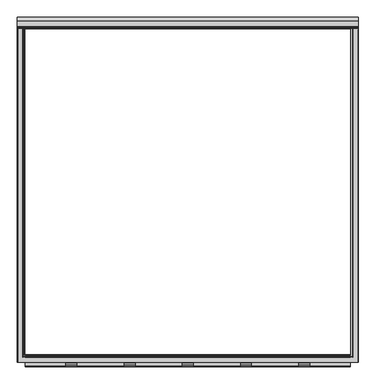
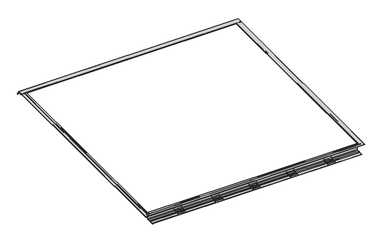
"""IFC4 building model written with IfcOpenShell, lengths in millimetres: fastener geometry."""

from ifc_helpers import new_model, si_unit, point, frame, frame_2d, origin, place, context, project, spatial, polyline, circle_curve, ellipse_curve, trimmed, segment, composite_curve, outline, extrude, source, transform, mapped, element, save
from ifc_brep_helpers import plane_surface, cylinder_surface, revolved_surface, advanced_brep


def fastener_14a7a0fd(model_context):
    return source(origin(), model_context, "Body", "SolidModel", [
        extrude(outline(composite_curve([segment(trimmed(circle_curve(frame_2d((-1145.5700599, -81.1625171)), 7.5509517), [point((-1138.0191082, -81.1625171))], [point((-1145.5700599, -88.7134688))], False, "CARTESIAN"), True, "CONTINUOUS"), segment(polyline([(-1145.5700599, -88.7134688), (-1177.5500422, -88.7134688)]), True, "CONTINUOUS"), segment(trimmed(circle_curve(frame_2d((-1177.2863618, -87.6574024)), 1.0884868), [point((-1177.5500422, -88.7134688))], [point((-1178.0560382, -86.8877259))], False, "CARTESIAN"), True, "CONTINUOUS"), segment(polyline([(-1178.0560382, -86.8877259), (-1176.7465916, -85.5782793)]), True, "CONTINUOUS"), segment(trimmed(circle_curve(frame_2d((-1177.516268, -84.8086029)), 1.0884868), [point((-1176.7465916, -85.5782793))], [point((-1176.911598, -83.9035184))], True, "CARTESIAN"), True, "CONTINUOUS"), segment(polyline([(-1176.911598, -83.9035184), (-1186.4250513, -83.9035184)]), True, "CONTINUOUS"), segment(trimmed(circle_curve(frame_2d((-1185.8203813, -84.8086029)), 1.0884868), [point((-1186.4250513, -83.9035184))], [point((-1186.5900578, -85.5782793))], True, "CARTESIAN"), True, "CONTINUOUS"), segment(polyline([(-1186.5900578, -85.5782793), (-1185.2806111, -86.8877259)]), True, "CONTINUOUS"), segment(trimmed(circle_curve(frame_2d((-1186.0502876, -87.6574024)), 1.0884868), [point((-1185.2806111, -86.8877259))], [point((-1185.7866071, -88.7134688))], False, "CARTESIAN"), True, "CONTINUOUS"), segment(polyline([(-1185.7866071, -88.7134688), (-1219.2, -88.7134688)]), True, "CONTINUOUS"), segment(trimmed(circle_curve(frame_2d((-1211.6858077, -87.981073)), 7.5498006), [point((-1219.2, -88.7134688))], [point((-1211.6858077, -80.4312724))], False, "CARTESIAN"), True, "CONTINUOUS"), segment(polyline([(-1211.6858077, -80.4312724), (-1195.9627839, -80.4312724)]), True, "CONTINUOUS"), segment(trimmed(circle_curve(frame_2d((-1195.8562589, -76.4549)), 3.977799), [point((-1195.9627839, -80.4312724))], [point((-1193.0435303, -79.2676287))], True, "CARTESIAN"), True, "CONTINUOUS"), segment(polyline([(-1193.0435303, -79.2676287), (-1190.9210407, -77.1451392)]), True, "CONTINUOUS"), segment(trimmed(circle_curve(frame_2d((-1188.1083121, -79.9578678)), 3.977799), [point((-1190.9210407, -77.1451392))], [point((-1188.0183247, -75.9810868))], False, "CARTESIAN"), True, "CONTINUOUS"), segment(polyline([(-1188.0183247, -75.9810868), (-1175.3183247, -75.9810868)]), True, "CONTINUOUS"), segment(trimmed(circle_curve(frame_2d((-1175.2283372, -79.9578678)), 3.977799), [point((-1175.3183247, -75.9810868))], [point((-1172.4156086, -77.1451392))], False, "CARTESIAN"), True, "CONTINUOUS"), segment(polyline([(-1172.4156086, -77.1451392), (-1170.2931191, -79.2676287)]), True, "CONTINUOUS"), segment(trimmed(circle_curve(frame_2d((-1167.4803904, -76.4549)), 3.977799), [point((-1170.2931191, -79.2676287))], [point((-1167.3738655, -80.4312724))], True, "CARTESIAN"), True, "CONTINUOUS"), segment(polyline([(-1167.3738655, -80.4312724), (-1150.9842926, -80.4312724)]), True, "CONTINUOUS"), segment(trimmed(circle_curve(frame_2d((-1150.2040874, -74.6486898)), 5.8349791), [point((-1150.9842926, -80.4312724))], [point((-1144.3691082, -74.6486898))], True, "CARTESIAN"), True, "CONTINUOUS"), segment(polyline([(-1144.3691082, -74.6486898), (-1144.3691082, -41.4750171), (-1138.0191082, -41.4750171), (-1138.0191082, -81.1625171)]), True, "CONTINUOUS")], self_intersect=False)), frame((774.7, 0.0, 0.0), z_axis=(1.0, 0.0, 0.0), x_axis=(0.0, 1.0, 0.0)), (0.0, 0.0, 1.0), 76.2),
        extrude(outline(composite_curve([segment(trimmed(circle_curve(frame_2d((-1145.5700599, -81.1625171)), 7.5509517), [point((-1138.0191082, -81.1625171))], [point((-1145.5700599, -88.7134688))], False, "CARTESIAN"), True, "CONTINUOUS"), segment(polyline([(-1145.5700599, -88.7134688), (-1177.5500422, -88.7134688)]), True, "CONTINUOUS"), segment(trimmed(circle_curve(frame_2d((-1177.2863618, -87.6574024)), 1.0884868), [point((-1177.5500422, -88.7134688))], [point((-1178.0560382, -86.8877259))], False, "CARTESIAN"), True, "CONTINUOUS"), segment(polyline([(-1178.0560382, -86.8877259), (-1176.7465916, -85.5782793)]), True, "CONTINUOUS"), segment(trimmed(circle_curve(frame_2d((-1177.516268, -84.8086029)), 1.0884868), [point((-1176.7465916, -85.5782793))], [point((-1176.911598, -83.9035184))], True, "CARTESIAN"), True, "CONTINUOUS"), segment(polyline([(-1176.911598, -83.9035184), (-1186.4250513, -83.9035184)]), True, "CONTINUOUS"), segment(trimmed(circle_curve(frame_2d((-1185.8203813, -84.8086029)), 1.0884868), [point((-1186.4250513, -83.9035184))], [point((-1186.5900578, -85.5782793))], True, "CARTESIAN"), True, "CONTINUOUS"), segment(polyline([(-1186.5900578, -85.5782793), (-1185.2806111, -86.8877259)]), True, "CONTINUOUS"), segment(trimmed(circle_curve(frame_2d((-1186.0502876, -87.6574024)), 1.0884868), [point((-1185.2806111, -86.8877259))], [point((-1185.7866071, -88.7134688))], False, "CARTESIAN"), True, "CONTINUOUS"), segment(polyline([(-1185.7866071, -88.7134688), (-1219.2, -88.7134688)]), True, "CONTINUOUS"), segment(trimmed(circle_curve(frame_2d((-1211.6858077, -87.981073)), 7.5498006), [point((-1219.2, -88.7134688))], [point((-1211.6858077, -80.4312724))], False, "CARTESIAN"), True, "CONTINUOUS"), segment(polyline([(-1211.6858077, -80.4312724), (-1195.9627839, -80.4312724)]), True, "CONTINUOUS"), segment(trimmed(circle_curve(frame_2d((-1195.8562589, -76.4549)), 3.977799), [point((-1195.9627839, -80.4312724))], [point((-1193.0435303, -79.2676287))], True, "CARTESIAN"), True, "CONTINUOUS"), segment(polyline([(-1193.0435303, -79.2676287), (-1190.9210407, -77.1451392)]), True, "CONTINUOUS"), segment(trimmed(circle_curve(frame_2d((-1188.1083121, -79.9578678)), 3.977799), [point((-1190.9210407, -77.1451392))], [point((-1188.0183247, -75.9810868))], False, "CARTESIAN"), True, "CONTINUOUS"), segment(polyline([(-1188.0183247, -75.9810868), (-1175.3183247, -75.9810868)]), True, "CONTINUOUS"), segment(trimmed(circle_curve(frame_2d((-1175.2283372, -79.9578678)), 3.977799), [point((-1175.3183247, -75.9810868))], [point((-1172.4156086, -77.1451392))], False, "CARTESIAN"), True, "CONTINUOUS"), segment(polyline([(-1172.4156086, -77.1451392), (-1170.2931191, -79.2676287)]), True, "CONTINUOUS"), segment(trimmed(circle_curve(frame_2d((-1167.4803904, -76.4549)), 3.977799), [point((-1170.2931191, -79.2676287))], [point((-1167.3738655, -80.4312724))], True, "CARTESIAN"), True, "CONTINUOUS"), segment(polyline([(-1167.3738655, -80.4312724), (-1150.9842926, -80.4312724)]), True, "CONTINUOUS"), segment(trimmed(circle_curve(frame_2d((-1150.2040874, -74.6486898)), 5.8349791), [point((-1150.9842926, -80.4312724))], [point((-1144.3691082, -74.6486898))], True, "CARTESIAN"), True, "CONTINUOUS"), segment(polyline([(-1144.3691082, -74.6486898), (-1144.3691082, -41.4750171), (-1138.0191082, -41.4750171), (-1138.0191082, -81.1625171)]), True, "CONTINUOUS")], self_intersect=False)), frame((-850.9, 0.0, 0.0), z_axis=(1.0, 0.0, 0.0), x_axis=(0.0, 1.0, 0.0)), (0.0, 0.0, 1.0), 76.2),
        extrude(outline(composite_curve([segment(trimmed(circle_curve(frame_2d((-1145.5700599, -81.1625171)), 7.5509517), [point((-1138.0191082, -81.1625171))], [point((-1145.5700599, -88.7134688))], False, "CARTESIAN"), True, "CONTINUOUS"), segment(polyline([(-1145.5700599, -88.7134688), (-1177.5500422, -88.7134688)]), True, "CONTINUOUS"), segment(trimmed(circle_curve(frame_2d((-1177.2863618, -87.6574024)), 1.0884868), [point((-1177.5500422, -88.7134688))], [point((-1178.0560382, -86.8877259))], False, "CARTESIAN"), True, "CONTINUOUS"), segment(polyline([(-1178.0560382, -86.8877259), (-1176.7465916, -85.5782793)]), True, "CONTINUOUS"), segment(trimmed(circle_curve(frame_2d((-1177.516268, -84.8086029)), 1.0884868), [point((-1176.7465916, -85.5782793))], [point((-1176.911598, -83.9035184))], True, "CARTESIAN"), True, "CONTINUOUS"), segment(polyline([(-1176.911598, -83.9035184), (-1186.4250513, -83.9035184)]), True, "CONTINUOUS"), segment(trimmed(circle_curve(frame_2d((-1185.8203813, -84.8086029)), 1.0884868), [point((-1186.4250513, -83.9035184))], [point((-1186.5900578, -85.5782793))], True, "CARTESIAN"), True, "CONTINUOUS"), segment(polyline([(-1186.5900578, -85.5782793), (-1185.2806111, -86.8877259)]), True, "CONTINUOUS"), segment(trimmed(circle_curve(frame_2d((-1186.0502876, -87.6574024)), 1.0884868), [point((-1185.2806111, -86.8877259))], [point((-1185.7866071, -88.7134688))], False, "CARTESIAN"), True, "CONTINUOUS"), segment(polyline([(-1185.7866071, -88.7134688), (-1219.2, -88.7134688)]), True, "CONTINUOUS"), segment(trimmed(circle_curve(frame_2d((-1211.6858077, -87.981073)), 7.5498006), [point((-1219.2, -88.7134688))], [point((-1211.6858077, -80.4312724))], False, "CARTESIAN"), True, "CONTINUOUS"), segment(polyline([(-1211.6858077, -80.4312724), (-1195.9627839, -80.4312724)]), True, "CONTINUOUS"), segment(trimmed(circle_curve(frame_2d((-1195.8562589, -76.4549)), 3.977799), [point((-1195.9627839, -80.4312724))], [point((-1193.0435303, -79.2676287))], True, "CARTESIAN"), True, "CONTINUOUS"), segment(polyline([(-1193.0435303, -79.2676287), (-1190.9210407, -77.1451392)]), True, "CONTINUOUS"), segment(trimmed(circle_curve(frame_2d((-1188.1083121, -79.9578678)), 3.977799), [point((-1190.9210407, -77.1451392))], [point((-1188.0183247, -75.9810868))], False, "CARTESIAN"), True, "CONTINUOUS"), segment(polyline([(-1188.0183247, -75.9810868), (-1175.3183247, -75.9810868)]), True, "CONTINUOUS"), segment(trimmed(circle_curve(frame_2d((-1175.2283372, -79.9578678)), 3.977799), [point((-1175.3183247, -75.9810868))], [point((-1172.4156086, -77.1451392))], False, "CARTESIAN"), True, "CONTINUOUS"), segment(polyline([(-1172.4156086, -77.1451392), (-1170.2931191, -79.2676287)]), True, "CONTINUOUS"), segment(trimmed(circle_curve(frame_2d((-1167.4803904, -76.4549)), 3.977799), [point((-1170.2931191, -79.2676287))], [point((-1167.3738655, -80.4312724))], True, "CARTESIAN"), True, "CONTINUOUS"), segment(polyline([(-1167.3738655, -80.4312724), (-1150.9842926, -80.4312724)]), True, "CONTINUOUS"), segment(trimmed(circle_curve(frame_2d((-1150.2040874, -74.6486898)), 5.8349791), [point((-1150.9842926, -80.4312724))], [point((-1144.3691082, -74.6486898))], True, "CARTESIAN"), True, "CONTINUOUS"), segment(polyline([(-1144.3691082, -74.6486898), (-1144.3691082, -41.4750171), (-1138.0191082, -41.4750171), (-1138.0191082, -81.1625171)]), True, "CONTINUOUS")], self_intersect=False)), frame((-444.5, 0.0, 0.0), z_axis=(1.0, 0.0, 0.0), x_axis=(0.0, 1.0, 0.0)), (0.0, 0.0, 1.0), 76.2),
        extrude(outline(composite_curve([segment(trimmed(circle_curve(frame_2d((-1145.5700599, -81.1625171)), 7.5509517), [point((-1138.0191082, -81.1625171))], [point((-1145.5700599, -88.7134688))], False, "CARTESIAN"), True, "CONTINUOUS"), segment(polyline([(-1145.5700599, -88.7134688), (-1177.5500422, -88.7134688)]), True, "CONTINUOUS"), segment(trimmed(circle_curve(frame_2d((-1177.2863618, -87.6574024)), 1.0884868), [point((-1177.5500422, -88.7134688))], [point((-1178.0560382, -86.8877259))], False, "CARTESIAN"), True, "CONTINUOUS"), segment(polyline([(-1178.0560382, -86.8877259), (-1176.7465916, -85.5782793)]), True, "CONTINUOUS"), segment(trimmed(circle_curve(frame_2d((-1177.516268, -84.8086029)), 1.0884868), [point((-1176.7465916, -85.5782793))], [point((-1176.911598, -83.9035184))], True, "CARTESIAN"), True, "CONTINUOUS"), segment(polyline([(-1176.911598, -83.9035184), (-1186.4250513, -83.9035184)]), True, "CONTINUOUS"), segment(trimmed(circle_curve(frame_2d((-1185.8203813, -84.8086029)), 1.0884868), [point((-1186.4250513, -83.9035184))], [point((-1186.5900578, -85.5782793))], True, "CARTESIAN"), True, "CONTINUOUS"), segment(polyline([(-1186.5900578, -85.5782793), (-1185.2806111, -86.8877259)]), True, "CONTINUOUS"), segment(trimmed(circle_curve(frame_2d((-1186.0502876, -87.6574024)), 1.0884868), [point((-1185.2806111, -86.8877259))], [point((-1185.7866071, -88.7134688))], False, "CARTESIAN"), True, "CONTINUOUS"), segment(polyline([(-1185.7866071, -88.7134688), (-1219.2, -88.7134688)]), True, "CONTINUOUS"), segment(trimmed(circle_curve(frame_2d((-1211.6858077, -87.981073)), 7.5498006), [point((-1219.2, -88.7134688))], [point((-1211.6858077, -80.4312724))], False, "CARTESIAN"), True, "CONTINUOUS"), segment(polyline([(-1211.6858077, -80.4312724), (-1195.9627839, -80.4312724)]), True, "CONTINUOUS"), segment(trimmed(circle_curve(frame_2d((-1195.8562589, -76.4549)), 3.977799), [point((-1195.9627839, -80.4312724))], [point((-1193.0435303, -79.2676287))], True, "CARTESIAN"), True, "CONTINUOUS"), segment(polyline([(-1193.0435303, -79.2676287), (-1190.9210407, -77.1451392)]), True, "CONTINUOUS"), segment(trimmed(circle_curve(frame_2d((-1188.1083121, -79.9578678)), 3.977799), [point((-1190.9210407, -77.1451392))], [point((-1188.0183247, -75.9810868))], False, "CARTESIAN"), True, "CONTINUOUS"), segment(polyline([(-1188.0183247, -75.9810868), (-1175.3183247, -75.9810868)]), True, "CONTINUOUS"), segment(trimmed(circle_curve(frame_2d((-1175.2283372, -79.9578678)), 3.977799), [point((-1175.3183247, -75.9810868))], [point((-1172.4156086, -77.1451392))], False, "CARTESIAN"), True, "CONTINUOUS"), segment(polyline([(-1172.4156086, -77.1451392), (-1170.2931191, -79.2676287)]), True, "CONTINUOUS"), segment(trimmed(circle_curve(frame_2d((-1167.4803904, -76.4549)), 3.977799), [point((-1170.2931191, -79.2676287))], [point((-1167.3738655, -80.4312724))], True, "CARTESIAN"), True, "CONTINUOUS"), segment(polyline([(-1167.3738655, -80.4312724), (-1150.9842926, -80.4312724)]), True, "CONTINUOUS"), segment(trimmed(circle_curve(frame_2d((-1150.2040874, -74.6486898)), 5.8349791), [point((-1150.9842926, -80.4312724))], [point((-1144.3691082, -74.6486898))], True, "CARTESIAN"), True, "CONTINUOUS"), segment(polyline([(-1144.3691082, -74.6486898), (-1144.3691082, -41.4750171), (-1138.0191082, -41.4750171), (-1138.0191082, -81.1625171)]), True, "CONTINUOUS")], self_intersect=False)), frame((368.3, 0.0, 0.0), z_axis=(1.0, 0.0, 0.0), x_axis=(0.0, 1.0, 0.0)), (0.0, 0.0, 1.0), 76.2),
        extrude(outline(composite_curve([segment(trimmed(circle_curve(frame_2d((-1145.5700599, -81.1625171)), 7.5509517), [point((-1138.0191082, -81.1625171))], [point((-1145.5700599, -88.7134688))], False, "CARTESIAN"), True, "CONTINUOUS"), segment(polyline([(-1145.5700599, -88.7134688), (-1177.5500422, -88.7134688)]), True, "CONTINUOUS"), segment(trimmed(circle_curve(frame_2d((-1177.2863618, -87.6574024)), 1.0884868), [point((-1177.5500422, -88.7134688))], [point((-1178.0560382, -86.8877259))], False, "CARTESIAN"), True, "CONTINUOUS"), segment(polyline([(-1178.0560382, -86.8877259), (-1176.7465916, -85.5782793)]), True, "CONTINUOUS"), segment(trimmed(circle_curve(frame_2d((-1177.516268, -84.8086029)), 1.0884868), [point((-1176.7465916, -85.5782793))], [point((-1176.911598, -83.9035184))], True, "CARTESIAN"), True, "CONTINUOUS"), segment(polyline([(-1176.911598, -83.9035184), (-1186.4250513, -83.9035184)]), True, "CONTINUOUS"), segment(trimmed(circle_curve(frame_2d((-1185.8203813, -84.8086029)), 1.0884868), [point((-1186.4250513, -83.9035184))], [point((-1186.5900578, -85.5782793))], True, "CARTESIAN"), True, "CONTINUOUS"), segment(polyline([(-1186.5900578, -85.5782793), (-1185.2806111, -86.8877259)]), True, "CONTINUOUS"), segment(trimmed(circle_curve(frame_2d((-1186.0502876, -87.6574024)), 1.0884868), [point((-1185.2806111, -86.8877259))], [point((-1185.7866071, -88.7134688))], False, "CARTESIAN"), True, "CONTINUOUS"), segment(polyline([(-1185.7866071, -88.7134688), (-1219.2, -88.7134688)]), True, "CONTINUOUS"), segment(trimmed(circle_curve(frame_2d((-1211.6858077, -87.981073)), 7.5498006), [point((-1219.2, -88.7134688))], [point((-1211.6858077, -80.4312724))], False, "CARTESIAN"), True, "CONTINUOUS"), segment(polyline([(-1211.6858077, -80.4312724), (-1195.9627839, -80.4312724)]), True, "CONTINUOUS"), segment(trimmed(circle_curve(frame_2d((-1195.8562589, -76.4549)), 3.977799), [point((-1195.9627839, -80.4312724))], [point((-1193.0435303, -79.2676287))], True, "CARTESIAN"), True, "CONTINUOUS"), segment(polyline([(-1193.0435303, -79.2676287), (-1190.9210407, -77.1451392)]), True, "CONTINUOUS"), segment(trimmed(circle_curve(frame_2d((-1188.1083121, -79.9578678)), 3.977799), [point((-1190.9210407, -77.1451392))], [point((-1188.0183247, -75.9810868))], False, "CARTESIAN"), True, "CONTINUOUS"), segment(polyline([(-1188.0183247, -75.9810868), (-1175.3183247, -75.9810868)]), True, "CONTINUOUS"), segment(trimmed(circle_curve(frame_2d((-1175.2283372, -79.9578678)), 3.977799), [point((-1175.3183247, -75.9810868))], [point((-1172.4156086, -77.1451392))], False, "CARTESIAN"), True, "CONTINUOUS"), segment(polyline([(-1172.4156086, -77.1451392), (-1170.2931191, -79.2676287)]), True, "CONTINUOUS"), segment(trimmed(circle_curve(frame_2d((-1167.4803904, -76.4549)), 3.977799), [point((-1170.2931191, -79.2676287))], [point((-1167.3738655, -80.4312724))], True, "CARTESIAN"), True, "CONTINUOUS"), segment(polyline([(-1167.3738655, -80.4312724), (-1150.9842926, -80.4312724)]), True, "CONTINUOUS"), segment(trimmed(circle_curve(frame_2d((-1150.2040874, -74.6486898)), 5.8349791), [point((-1150.9842926, -80.4312724))], [point((-1144.3691082, -74.6486898))], True, "CARTESIAN"), True, "CONTINUOUS"), segment(polyline([(-1144.3691082, -74.6486898), (-1144.3691082, -41.4750171), (-1138.0191082, -41.4750171), (-1138.0191082, -81.1625171)]), True, "CONTINUOUS")], self_intersect=False)), frame((-38.1, 0.0, 0.0), z_axis=(1.0, 0.0, 0.0), x_axis=(0.0, 1.0, 0.0)), (0.0, 0.0, 1.0), 76.2),
        extrude(outline(composite_curve([segment(polyline([(-1135.3165, -15.1804688), (-1135.3165, -91.3804688), (-1217.8665, -91.3804688)]), True, "CONTINUOUS"), segment(trimmed(circle_curve(frame_2d((-1217.8665, -90.0469688)), 1.3335), [point((-1217.8665, -91.3804688))], [point((-1217.8665, -88.7134688))], False, "CARTESIAN"), True, "CONTINUOUS"), segment(polyline([(-1217.8665, -88.7134688), (-1185.7509989, -88.7134688)]), True, "CONTINUOUS"), segment(trimmed(circle_curve(frame_2d((-1186.0146793, -87.6574024)), 1.0884868), [point((-1185.7509989, -88.7134688))], [point((-1185.2450029, -86.8877259))], True, "CARTESIAN"), True, "CONTINUOUS"), segment(polyline([(-1185.2450029, -86.8877259), (-1186.5544495, -85.5782793)]), True, "CONTINUOUS"), segment(trimmed(circle_curve(frame_2d((-1185.7847731, -84.8086029)), 1.0884868), [point((-1186.5544495, -85.5782793))], [point((-1186.389443, -83.9035184))], False, "CARTESIAN"), True, "CONTINUOUS"), segment(polyline([(-1186.389443, -83.9035184), (-1176.8759898, -83.9035184)]), True, "CONTINUOUS"), segment(trimmed(circle_curve(frame_2d((-1177.4806597, -84.8086029)), 1.0884868), [point((-1176.8759898, -83.9035184))], [point((-1176.7109833, -85.5782793))], False, "CARTESIAN"), True, "CONTINUOUS"), segment(polyline([(-1176.7109833, -85.5782793), (-1178.0204299, -86.8877259)]), True, "CONTINUOUS"), segment(trimmed(circle_curve(frame_2d((-1177.2507535, -87.6574024)), 1.0884868), [point((-1178.0204299, -86.8877259))], [point((-1177.5144339, -88.7134688))], True, "CARTESIAN"), True, "CONTINUOUS"), segment(polyline([(-1177.5144339, -88.7134688), (-1145.5344517, -88.7134688)]), True, "CONTINUOUS"), segment(trimmed(circle_curve(frame_2d((-1145.5344517, -81.1625171)), 7.5509517), [point((-1145.5344517, -88.7134688))], [point((-1137.9835, -81.1625171))], True, "CARTESIAN"), True, "CONTINUOUS"), segment(polyline([(-1137.9835, -81.1625171), (-1137.9835, -21.87801), (-1156.2117258, -21.87801), (-1156.2117258, -15.1804688), (-1152.1178999, -15.1804688)]), True, "CONTINUOUS"), segment(trimmed(circle_curve(frame_2d((-1152.8274757, -16.2725079)), 1.3023238), [point((-1152.1178999, -15.1804688))], [point((-1151.9131963, -17.1999455))], False, "CARTESIAN"), True, "CONTINUOUS"), segment(polyline([(-1151.9131963, -17.1999455), (-1152.9649499, -18.2679836)]), True, "CONTINUOUS"), segment(trimmed(circle_curve(frame_2d((-1152.5091166, -18.6293281)), 0.5816819), [point((-1152.9649499, -18.2679836))], [point((-1152.5091166, -19.21101))], True, "CARTESIAN"), True, "CONTINUOUS"), segment(polyline([(-1152.5091166, -19.21101), (-1140.8594568, -19.21101)]), True, "CONTINUOUS"), segment(trimmed(circle_curve(frame_2d((-1140.8594568, -18.6130003)), 0.5980097), [point((-1140.8594568, -19.21101))], [point((-1140.3710112, -18.2679836))], True, "CARTESIAN"), True, "CONTINUOUS"), segment(polyline([(-1140.3710112, -18.2679836), (-1141.460117, -17.1999455)]), True, "CONTINUOUS"), segment(trimmed(circle_curve(frame_2d((-1140.5022273, -16.284676)), 1.3248664), [point((-1141.460117, -17.1999455))], [point((-1141.2343456, -15.1804688))], False, "CARTESIAN"), True, "CONTINUOUS"), segment(polyline([(-1141.2343456, -15.1804688), (-1135.3165, -15.1804688)]), True, "CONTINUOUS")], self_intersect=False)), frame((-1135.3165, 0.0, 0.0), z_axis=(1.0, 0.0, 0.0), x_axis=(0.0, 1.0, 0.0)), (0.0, 0.0, 1.0), 2270.633),
        advanced_brep(
        [(-1189.1053092, 1141.2343456, -15.1685625), (-1189.1053092, 1135.3165, -15.1685625), (-1189.1053092, 1135.3165, -13.8350625), (-1189.1053092, 1135.3165, -12.5015625), (-1189.1053092, 1190.6451024, -12.5015625), (-1189.1053092, 1217.7515464, -59.4513008), (-1189.1053092, 1215.4418567, -60.7848008), (-1189.1053092, 1189.1053092, -15.1685625), (-1189.1053092, 1161.8308783, -15.1685625), (-1189.1053092, 1159.573508, -17.4259327), (-1189.1053092, 1159.573508, -26.7633474), (-1189.1053092, 1149.6719492, -26.7633474), (-1189.1053092, 1149.6719492, -24.7662067), (-1189.1053092, 1150.5032605, -24.7662067), (-1189.1053092, 1151.5117177, -23.7577495), (-1189.1053092, 1151.5117177, -21.8661038), (-1189.1053092, 1156.2117258, -21.8661038), (-1189.1053092, 1156.2117258, -15.1685625), (-1189.1053092, 1152.1178999, -15.1685625), (-1189.1053092, 1151.9131963, -17.2095918), (-1189.1053092, 1152.9812344, -18.2776299), (-1189.1053092, 1152.5091166, -19.1991038), (-1189.1053092, 1140.8431289, -19.1991038), (-1189.1053092, 1140.3710112, -18.2776299), (-1189.1053092, 1141.4390493, -17.2095918), (1189.1053092, 1141.2343456, -15.1685625), (1189.1053092, 1141.4390493, -17.2095918), (1189.1053092, 1140.3710112, -18.2776299), (1189.1053092, 1140.8431289, -19.1991038), (1189.1053092, 1152.5091166, -19.1991038), (1189.1053092, 1152.9812344, -18.2776299), (1189.1053092, 1151.9131963, -17.2095918), (1189.1053092, 1152.1178999, -15.1685625), (1189.1053092, 1156.2117258, -15.1685625), (1189.1053092, 1156.2117258, -21.8661038), (1189.1053092, 1151.5117177, -21.8661038), (1189.1053092, 1151.5117177, -23.7577495), (1189.1053092, 1150.5032605, -24.7662067), (1189.1053092, 1149.6719492, -24.7662067), (1189.1053092, 1149.6719492, -26.7633474), (1189.1053092, 1159.573508, -26.7633474), (1189.1053092, 1159.573508, -17.4259327), (1189.1053092, 1161.8308783, -15.1685625), (1189.1053092, 1189.1053092, -15.1685625), (1189.1053092, 1215.4418567, -60.7848008), (1189.1053092, 1217.7515464, -59.4513008), (1189.1053092, 1190.6451024, -12.5015625), (1189.1053092, 1135.3165, -12.5015625), (1189.1053092, 1135.3165, -13.8350625), (1189.1053092, 1135.3165, -15.1685625), (1187.7718092, 1135.3165, -15.1685625), (1187.7718092, -1187.7718092, -15.1685625), (-1187.7718092, -1187.7718092, -15.1685625), (-1187.7718092, 1135.3165, -15.1685625), (1135.3165, 1135.3165, -15.1685625), (-1135.3165, 1135.3165, -15.1685625), (-1135.3165, -1135.3165, -15.1685625), (1135.3165, -1135.3165, -15.1685625), (-1141.2160631, 1135.3165, -15.1685625), (-1152.1361825, 1135.3165, -15.1685625), (-1152.1361825, -1152.1361825, -15.1685625), (1152.1361825, -1152.1361825, -15.1685625), (1152.1361825, 1135.3165, -15.1685625), (1141.2160631, 1135.3165, -15.1685625), (1141.2160631, -1141.2160631, -15.1685625), (-1141.2160631, -1141.2160631, -15.1685625), (-1156.2117258, 1135.3165, -15.1685625), (-1161.8308783, 1135.3165, -15.1685625), (-1161.8308783, -1161.8308783, -15.1685625), (1161.8308783, -1161.8308783, -15.1685625), (1161.8308783, 1135.3165, -15.1685625), (1156.2117258, 1135.3165, -15.1685625), (1156.2117258, -1156.2117258, -15.1685625), (-1156.2117258, -1156.2117258, -15.1685625), (-1187.7718092, 1135.3165, -12.5015625), (1187.7718092, 1135.3165, -12.5015625), (1135.3165, 1135.3165, -12.5015625), (-1135.3165, 1135.3165, -12.5015625), (-1187.7718092, -1187.7718092, -12.5015625), (1187.7718092, -1187.7718092, -12.5015625), (1135.3165, -1135.3165, -12.5015625), (-1135.3165, -1135.3165, -12.5015625), (-1141.4390493, 1135.3165, -17.221498), (-1140.3710112, 1135.3165, -18.2895361), (-1140.8431289, 1135.3165, -19.21101), (-1152.5091166, 1135.3165, -19.21101), (-1152.9812344, 1135.3165, -18.2895361), (-1151.9131963, 1135.3165, -17.221498), (-1156.2117258, 1135.3165, -21.87801), (-1151.5117177, 1135.3165, -21.87801), (-1151.5117177, 1135.3165, -23.7696558), (-1150.5032605, 1135.3165, -24.7781129), (-1149.6719492, 1135.3165, -24.7781129), (-1149.6719492, 1135.3165, -26.7633474), (-1159.573508, 1135.3165, -26.7633474), (-1159.573508, 1135.3165, -17.4259327), (-1141.4390493, -1141.4390493, -17.221498), (-1140.3710112, -1140.3710112, -18.2895361), (-1140.8431289, -1140.8431289, -19.21101), (1140.8431289, -1140.8431289, -19.21101), (1140.8431289, 1135.3165, -19.21101), (1152.5091166, 1135.3165, -19.21101), (1152.5091166, -1152.5091166, -19.21101), (-1152.5091166, -1152.5091166, -19.21101), (-1152.9812344, -1152.9812344, -18.2895361), (-1151.9131963, -1151.9131963, -17.221498), (-1156.2117258, -1156.2117258, -21.87801), (1156.2117258, -1156.2117258, -21.87801), (1156.2117258, 1135.3165, -21.87801), (1151.5117177, 1135.3165, -21.87801), (1151.5117177, -1151.5117177, -21.87801), (-1151.5117177, -1151.5117177, -21.87801), (-1151.5117177, -1151.5117177, -23.7696558), (-1150.5032605, -1150.5032605, -24.7781129), (1150.5032605, -1150.5032605, -24.7781129), (1150.5032605, 1135.3165, -24.7781129), (1149.6719492, 1135.3165, -24.7781129), (1149.6719492, -1149.6719492, -24.7781129), (-1149.6719492, -1149.6719492, -24.7781129), (-1149.6719492, -1149.6719492, -26.7633474), (1149.6719492, -1149.6719492, -26.7633474), (1149.6719492, 1135.3165, -26.7633474), (1159.573508, 1135.3165, -26.7633474), (1159.573508, -1159.573508, -26.7633474), (-1159.573508, -1159.573508, -26.7633474), (-1159.573508, -1159.573508, -17.4259327), (1141.4390493, -1141.4390493, -17.221498), (1140.3710112, -1140.3710112, -18.2895361), (1152.9812344, -1152.9812344, -18.2895361), (1151.9131963, -1151.9131963, -17.221498), (1151.5117177, -1151.5117177, -23.7696558), (1159.573508, -1159.573508, -17.4259327), (1140.3710112, 1135.3165, -18.2895361), (1141.4390493, 1135.3165, -17.221498), (1151.9131963, 1135.3165, -17.221498), (1152.9812344, 1135.3165, -18.2895361), (1159.573508, 1135.3165, -17.4259327), (1151.5117177, 1135.3165, -23.7696558)],
        [
            (0, 1),
            (1, 2),
            (2, 3),
            (3, 4),
            (4, 5),
            (5, 6),
            (6, 7),
            (7, 8),
            (8, 9, circle_curve(frame((-1189.1053092, 1161.8308783, -17.4259327), z_axis=(1.0, 0.0, 0.0), x_axis=(0.0, 1.0, 0.0)), 2.2573702)),
            (9, 10),
            (10, 11),
            (11, 12, circle_curve(frame((-1189.1053092, 1149.6719492, -25.764777), z_axis=(-1.0, 0.0, 0.0), x_axis=(0.0, 1.0, 0.0)), 0.9985703)),
            (12, 13),
            (13, 14, circle_curve(frame((-1189.1053092, 1150.5032605, -23.7577495), z_axis=(1.0, 0.0, 0.0), x_axis=(0.0, 1.0, 0.0)), 1.0084572)),
            (14, 15),
            (15, 16),
            (16, 17),
            (17, 18),
            (18, 19, circle_curve(frame((-1189.1053092, 1152.8500183, -16.2727698), z_axis=(1.0, 0.0, 0.0), x_axis=(0.0, 1.0, 0.0)), 1.3248664)),
            (19, 20),
            (20, 21, circle_curve(frame((-1189.1053092, 1152.5091166, -18.6174219), z_axis=(-1.0, 0.0, 0.0), x_axis=(0.0, 1.0, 0.0)), 0.5816819)),
            (21, 22),
            (22, 23, circle_curve(frame((-1189.1053092, 1140.8431289, -18.6174219), z_axis=(-1.0, 0.0, 0.0), x_axis=(0.0, 1.0, 0.0)), 0.5816819)),
            (23, 24),
            (24, 0, circle_curve(frame((-1189.1053092, 1140.5022273, -16.2727698), z_axis=(1.0, 0.0, 0.0), x_axis=(0.0, 1.0, 0.0)), 1.3248664)),
            (25, 26, circle_curve(frame((1189.1053092, 1140.5022273, -16.2727698), z_axis=(-1.0, 0.0, 0.0), x_axis=(0.0, 1.0, 0.0)), 1.3248664)),
            (26, 27),
            (27, 28, circle_curve(frame((1189.1053092, 1140.8431289, -18.6174219), z_axis=(1.0, 0.0, 0.0), x_axis=(0.0, 1.0, 0.0)), 0.5816819)),
            (28, 29),
            (29, 30, circle_curve(frame((1189.1053092, 1152.5091166, -18.6174219), z_axis=(1.0, 0.0, 0.0), x_axis=(0.0, 1.0, 0.0)), 0.5816819)),
            (30, 31),
            (31, 32, circle_curve(frame((1189.1053092, 1152.8500183, -16.2727698), z_axis=(-1.0, 0.0, 0.0), x_axis=(0.0, 1.0, 0.0)), 1.3248664)),
            (32, 33),
            (33, 34),
            (34, 35),
            (35, 36),
            (36, 37, circle_curve(frame((1189.1053092, 1150.5032605, -23.7577495), z_axis=(-1.0, 0.0, 0.0), x_axis=(0.0, 1.0, 0.0)), 1.0084572)),
            (37, 38),
            (38, 39, circle_curve(frame((1189.1053092, 1149.6719492, -25.764777), z_axis=(1.0, 0.0, 0.0), x_axis=(0.0, 1.0, 0.0)), 0.9985703)),
            (39, 40),
            (40, 41),
            (41, 42, circle_curve(frame((1189.1053092, 1161.8308783, -17.4259327), z_axis=(-1.0, 0.0, 0.0), x_axis=(0.0, 1.0, 0.0)), 2.2573702)),
            (42, 43),
            (43, 44),
            (44, 45),
            (45, 46),
            (46, 47),
            (47, 48),
            (48, 49),
            (49, 25),
            (0, 25),
            (49, 50),
            (50, 51),
            (51, 52),
            (52, 53),
            (53, 1),
            (54, 55),
            (55, 56),
            (56, 57),
            (57, 54),
            (58, 59),
            (59, 60),
            (60, 61),
            (61, 62),
            (62, 63),
            (63, 64),
            (64, 65),
            (65, 58),
            (66, 67),
            (67, 68),
            (68, 69),
            (69, 70),
            (70, 71),
            (71, 72),
            (72, 73),
            (73, 66),
            (53, 2, circle_curve(frame((-1187.7718092, 1135.3165, -13.8350625), z_axis=(0.0, 1.0, 0.0), x_axis=(1.0, 0.0, 0.0)), 1.3335)),
            (2, 74, circle_curve(frame((-1187.7718092, 1135.3165, -13.8350625), z_axis=(0.0, 1.0, 0.0), x_axis=(1.0, 0.0, 0.0)), 1.3335)),
            (74, 3),
            (47, 75),
            (75, 48, circle_curve(frame((1187.7718092, 1135.3165, -13.8350625), z_axis=(0.0, 1.0, 0.0), x_axis=(-1.0, 0.0, 0.0)), 1.3335)),
            (48, 50, circle_curve(frame((1187.7718092, 1135.3165, -13.8350625), z_axis=(0.0, 1.0, 0.0), x_axis=(-1.0, 0.0, 0.0)), 1.3335)),
            (54, 76),
            (76, 77),
            (77, 55),
            (74, 78),
            (78, 79),
            (79, 75),
            (46, 4),
            (76, 80),
            (80, 81),
            (81, 77),
            (45, 5),
            (44, 6),
            (43, 7),
            (42, 8),
            (41, 9),
            (40, 10),
            (39, 11),
            (38, 12),
            (37, 13),
            (36, 14),
            (35, 15),
            (34, 16),
            (33, 17),
            (32, 18),
            (19, 31),
            (30, 20),
            (29, 21),
            (28, 22),
            (27, 23),
            (26, 24),
            (58, 82, circle_curve(frame((-1140.5022273, 1135.3165, -16.284676), z_axis=(0.0, -1.0, 0.0), x_axis=(1.0, 0.0, 0.0)), 1.3248664)),
            (82, 83),
            (83, 84, circle_curve(frame((-1140.8431289, 1135.3165, -18.6293281), z_axis=(0.0, 1.0, 0.0), x_axis=(1.0, 0.0, 0.0)), 0.5816819)),
            (84, 85),
            (85, 86, circle_curve(frame((-1152.5091166, 1135.3165, -18.6293281), z_axis=(0.0, 1.0, 0.0), x_axis=(1.0, 0.0, 0.0)), 0.5816819)),
            (86, 87),
            (87, 59, circle_curve(frame((-1152.8500183, 1135.3165, -16.284676), z_axis=(0.0, -1.0, 0.0), x_axis=(1.0, 0.0, 0.0)), 1.3248664)),
            (66, 88),
            (88, 89),
            (89, 90),
            (90, 91, circle_curve(frame((-1150.5032605, 1135.3165, -23.7696558), z_axis=(0.0, -1.0, 0.0), x_axis=(1.0, 0.0, 0.0)), 1.0084572)),
            (91, 92),
            (92, 93, circle_curve(frame((-1149.6719492, 1135.3165, -25.7707301), z_axis=(0.0, 1.0, 0.0), x_axis=(1.0, 0.0, 0.0)), 0.9926172)),
            (93, 94),
            (94, 95),
            (95, 67, circle_curve(frame((-1161.8308783, 1135.3165, -17.4259327), z_axis=(0.0, -1.0, 0.0), x_axis=(1.0, 0.0, 0.0)), 2.2573702)),
            (65, 96, ellipse_curve(frame((-1140.5022273, -1140.5022273, -16.284676), z_axis=(0.7071067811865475, -0.7071067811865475, 0.0), x_axis=(-0.7071067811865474, -0.7071067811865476, 0.0)), 1.873644, 1.3248664)),
            (96, 82),
            (96, 97),
            (97, 83),
            (97, 98, ellipse_curve(frame((-1140.8431289, -1140.8431289, -18.6293281), z_axis=(-0.7071067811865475, 0.7071067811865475, 0.0), x_axis=(0.7071067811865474, 0.7071067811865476, 0.0)), 0.8226224, 0.5816819)),
            (98, 84),
            (98, 99),
            (99, 100),
            (100, 101),
            (101, 102),
            (102, 103),
            (103, 85),
            (103, 104, ellipse_curve(frame((-1152.5091166, -1152.5091166, -18.6293281), z_axis=(-0.7071067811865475, 0.7071067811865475, 0.0), x_axis=(0.7071067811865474, 0.7071067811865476, 0.0)), 0.8226224, 0.5816819)),
            (104, 86),
            (104, 105),
            (105, 87),
            (105, 60, ellipse_curve(frame((-1152.8500183, -1152.8500183, -16.284676), z_axis=(0.7071067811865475, -0.7071067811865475, 0.0), x_axis=(-0.7071067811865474, -0.7071067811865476, 0.0)), 1.873644, 1.3248664)),
            (73, 106),
            (106, 88),
            (106, 107),
            (107, 108),
            (108, 109),
            (109, 110),
            (110, 111),
            (111, 89),
            (111, 112),
            (112, 90),
            (112, 113, ellipse_curve(frame((-1150.5032605, -1150.5032605, -23.7696558), z_axis=(0.7071067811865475, -0.7071067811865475, 0.0), x_axis=(-0.7071067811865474, -0.7071067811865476, 0.0)), 1.4261738, 1.0084572)),
            (113, 91),
            (113, 114),
            (114, 115),
            (115, 116),
            (116, 117),
            (117, 118),
            (118, 92),
            (118, 119, ellipse_curve(frame((-1149.6719492, -1149.6719492, -25.7707301), z_axis=(-0.7071067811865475, 0.7071067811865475, 0.0), x_axis=(0.7071067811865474, 0.7071067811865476, 0.0)), 1.4037727, 0.9926172)),
            (119, 93),
            (119, 120),
            (120, 121),
            (121, 122),
            (122, 123),
            (123, 124),
            (124, 94),
            (124, 125),
            (125, 95),
            (125, 68, ellipse_curve(frame((-1161.8308783, -1161.8308783, -17.4259327), z_axis=(0.7071067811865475, -0.7071067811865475, 0.0), x_axis=(-0.7071067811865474, -0.7071067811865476, 0.0)), 3.1924036, 2.2573702)),
            (52, 78, ellipse_curve(frame((-1187.7718092, -1187.7718092, -13.8350625), z_axis=(-0.7071067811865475, 0.7071067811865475, 0.0), x_axis=(0.7071067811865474, 0.7071067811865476, 0.0)), 1.8858538, 1.3335)),
            (81, 56),
            (64, 126, ellipse_curve(frame((1140.5022273, -1140.5022273, -16.284676), z_axis=(0.7071067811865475, 0.7071067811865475, 0.0), x_axis=(0.7071067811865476, -0.7071067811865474, 0.0)), 1.873644, 1.3248664)),
            (126, 96),
            (126, 127),
            (127, 97),
            (127, 99, ellipse_curve(frame((1140.8431289, -1140.8431289, -18.6293281), z_axis=(-0.7071067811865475, -0.7071067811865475, 0.0), x_axis=(-0.7071067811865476, 0.7071067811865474, 0.0)), 0.8226224, 0.5816819)),
            (102, 128, ellipse_curve(frame((1152.5091166, -1152.5091166, -18.6293281), z_axis=(-0.7071067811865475, -0.7071067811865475, 0.0), x_axis=(-0.7071067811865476, 0.7071067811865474, 0.0)), 0.8226224, 0.5816819)),
            (128, 104),
            (128, 129),
            (129, 105),
            (129, 61, ellipse_curve(frame((1152.8500183, -1152.8500183, -16.284676), z_axis=(0.7071067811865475, 0.7071067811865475, 0.0), x_axis=(0.7071067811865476, -0.7071067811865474, 0.0)), 1.873644, 1.3248664)),
            (72, 107),
            (110, 130),
            (130, 112),
            (130, 114, ellipse_curve(frame((1150.5032605, -1150.5032605, -23.7696558), z_axis=(0.7071067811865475, 0.7071067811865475, 0.0), x_axis=(0.7071067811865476, -0.7071067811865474, 0.0)), 1.4261738, 1.0084572)),
            (117, 120, ellipse_curve(frame((1149.6719492, -1149.6719492, -25.7707301), z_axis=(-0.7071067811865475, -0.7071067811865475, 0.0), x_axis=(-0.7071067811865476, 0.7071067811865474, 0.0)), 1.4037727, 0.9926172)),
            (123, 131),
            (131, 125),
            (131, 69, ellipse_curve(frame((1161.8308783, -1161.8308783, -17.4259327), z_axis=(0.7071067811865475, 0.7071067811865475, 0.0), x_axis=(0.7071067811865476, -0.7071067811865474, 0.0)), 3.1924036, 2.2573702)),
            (51, 79, ellipse_curve(frame((1187.7718092, -1187.7718092, -13.8350625), z_axis=(-0.7071067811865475, -0.7071067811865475, 0.0), x_axis=(-0.7071067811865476, 0.7071067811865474, 0.0)), 1.8858538, 1.3335)),
            (80, 57),
            (100, 132, circle_curve(frame((1140.8431289, 1135.3165, -18.6293281), z_axis=(0.0, 1.0, 0.0), x_axis=(-1.0, 0.0, 0.0)), 0.5816819)),
            (132, 133),
            (133, 63, circle_curve(frame((1140.5022273, 1135.3165, -16.284676), z_axis=(0.0, -1.0, 0.0), x_axis=(-1.0, 0.0, 0.0)), 1.3248664)),
            (62, 134, circle_curve(frame((1152.8500183, 1135.3165, -16.284676), z_axis=(0.0, -1.0, 0.0), x_axis=(-1.0, 0.0, 0.0)), 1.3248664)),
            (134, 135),
            (135, 101, circle_curve(frame((1152.5091166, 1135.3165, -18.6293281), z_axis=(0.0, 1.0, 0.0), x_axis=(-1.0, 0.0, 0.0)), 0.5816819)),
            (108, 71),
            (70, 136, circle_curve(frame((1161.8308783, 1135.3165, -17.4259327), z_axis=(0.0, -1.0, 0.0), x_axis=(-1.0, 0.0, 0.0)), 2.2573702)),
            (136, 122),
            (121, 116, circle_curve(frame((1149.6719492, 1135.3165, -25.7707301), z_axis=(0.0, 1.0, 0.0), x_axis=(-1.0, 0.0, 0.0)), 0.9926172)),
            (115, 137, circle_curve(frame((1150.5032605, 1135.3165, -23.7696558), z_axis=(0.0, -1.0, 0.0), x_axis=(-1.0, 0.0, 0.0)), 1.0084572)),
            (137, 109),
            (133, 126),
            (132, 127),
            (135, 128),
            (134, 129),
            (137, 130),
            (136, 131),
        ],
        [
            plane_surface(frame((-1189.1053092, 1219.2, 0.0), z_axis=(-1.0, 0.0, 0.0), x_axis=(0.0, 0.0, 1.0))),
            plane_surface(frame((1189.1053092, 1219.2, 0.0), z_axis=(1.0, 0.0, 0.0), x_axis=(0.0, 0.0, 1.0))),
            plane_surface(frame((-1189.1053092, 1141.2343456, -15.1685625), z_axis=(0.0, 0.0, -1.0), x_axis=(1.0, 0.0, 0.0))),
            plane_surface(frame((-1189.1053092, 1135.3165, -15.1685625), z_axis=(0.0, -1.0, 0.0), x_axis=(1.0, 0.0, 0.0))),
            plane_surface(frame((-1189.1053092, 1135.3165, -12.5015625), z_axis=(0.0, 0.0, 1.0), x_axis=(1.0, 0.0, 0.0))),
            plane_surface(frame((-1189.1053092, 1190.6451024, -12.5015625), z_axis=(0.0, 0.8660254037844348, 0.5000000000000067), x_axis=(1.0, 0.0, 0.0))),
            plane_surface(frame((-1189.1053092, 1217.7515464, -59.4513008), z_axis=(0.0, 0.4999999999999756, -0.8660254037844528), x_axis=(1.0, 0.0, 0.0))),
            plane_surface(frame((-1189.1053092, 1215.4418567, -60.7848008), z_axis=(0.0, -0.8660254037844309, -0.5000000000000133), x_axis=(1.0, 0.0, 0.0))),
            plane_surface(frame((-1189.1053092, 1189.1053092, -15.1685625), z_axis=(0.0, 0.0, -1.0), x_axis=(1.0, 0.0, 0.0))),
            revolved_surface(polyline([(1189.1053092, 1164.0882485, -17.4259327), (-1189.1053092, 1164.0882485, -17.4259327)]), (-1189.1053092, 1161.8308783, -17.4259327), (1.0, 0.0, 0.0)),
            plane_surface(frame((-1189.1053092, 1159.573508, -17.4259327), z_axis=(0.0, 1.0, 0.0), x_axis=(1.0, 0.0, 0.0))),
            plane_surface(frame((-1189.1053092, 1159.573508, -26.7633474), z_axis=(0.0, 0.0, -1.0), x_axis=(1.0, 0.0, 0.0))),
            cylinder_surface(frame((-1189.1053092, 1149.6719492, -25.764777), z_axis=(-1.0, 0.0, 0.0), x_axis=(0.0, 1.0, 0.0)), 0.9985703),
            plane_surface(frame((-1189.1053092, 1149.6719492, -24.7662067), z_axis=(0.0, 0.0, 1.0), x_axis=(1.0, 0.0, 0.0))),
            revolved_surface(polyline([(1189.1053092, 1151.5117177, -23.7577495), (-1189.1053092, 1151.5117177, -23.7577495)]), (-1189.1053092, 1150.5032605, -23.7577495), (1.0, 0.0, 0.0)),
            plane_surface(frame((-1189.1053092, 1151.5117177, -23.7577495), z_axis=(0.0, -1.0, 0.0), x_axis=(1.0, 0.0, 0.0))),
            plane_surface(frame((-1189.1053092, 1151.5117177, -21.8661038), z_axis=(0.0, 0.0, 1.0), x_axis=(1.0, 0.0, 0.0))),
            plane_surface(frame((-1189.1053092, 1156.2117258, -21.8661038), z_axis=(0.0, -1.0, 0.0), x_axis=(1.0, 0.0, 0.0))),
            plane_surface(frame((-1189.1053092, 1156.2117258, -15.1685625), z_axis=(0.0, 0.0, -1.0), x_axis=(1.0, 0.0, 0.0))),
            plane_surface(frame((-1189.1053092, 1151.9131963, -17.2095918), z_axis=(0.0, 0.7071067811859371, 0.7071067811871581), x_axis=(1.0, 0.0, 0.0))),
            cylinder_surface(frame((-1189.1053092, 1152.5091166, -18.6174219), z_axis=(-1.0, 0.0, 0.0), x_axis=(0.0, 1.0, 0.0)), 0.5816819),
            plane_surface(frame((-1189.1053092, 1152.5091166, -19.1991038), z_axis=(0.0, 0.0, -1.0), x_axis=(1.0, 0.0, 0.0))),
            cylinder_surface(frame((-1189.1053092, 1140.8431289, -18.6174219), z_axis=(-1.0, 0.0, 0.0), x_axis=(0.0, 1.0, 0.0)), 0.5816819),
            plane_surface(frame((-1189.1053092, 1140.3710112, -18.2776299), z_axis=(0.0, -0.7071067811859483, 0.7071067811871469), x_axis=(1.0, 0.0, 0.0))),
            revolved_surface(polyline([(1189.1053092, 1154.1748847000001, -16.2727698), (-1189.1053092, 1154.1748847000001, -16.2727698)]), (-1189.1053092, 1152.8500183, -16.2727698), (1.0, 0.0, 0.0)),
            revolved_surface(polyline([(1189.1053092, 1141.8270937, -16.2727698), (-1189.1053092, 1141.8270937, -16.2727698)]), (-1189.1053092, 1140.5022273, -16.2727698), (1.0, 0.0, 0.0)),
            plane_surface(frame((-1219.2, 1135.3165, 0.0), z_axis=(0.0, 1.0, 0.0), x_axis=(0.0, 0.0, 1.0))),
            revolved_surface(polyline([(-1139.1773609, -1141.8270936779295, -16.284676), (-1139.1773609, 1135.3165, -16.284676)]), (-1140.5022273, 1135.3165, -16.284676), (0.0, -1.0, 0.0)),
            plane_surface(frame((-1141.4390493, 1135.3165, -17.221498), z_axis=(0.7071067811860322, 0.0, 0.7071067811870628), x_axis=(0.0, -1.0, 0.0))),
            cylinder_surface(frame((-1140.8431289, 1135.3165, -18.6293281), z_axis=(0.0, 1.0, 0.0), x_axis=(1.0, 0.0, 0.0)), 0.5816819),
            plane_surface(frame((-1140.8431289, 1135.3165, -19.21101), z_axis=(0.0, 0.0, -1.0), x_axis=(0.0, -1.0, 0.0))),
            cylinder_surface(frame((-1152.5091166, 1135.3165, -18.6293281), z_axis=(0.0, 1.0, 0.0), x_axis=(1.0, 0.0, 0.0)), 0.5816819),
            plane_surface(frame((-1152.9812344, 1135.3165, -18.2895361), z_axis=(-0.7071067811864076, 0.0, 0.7071067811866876), x_axis=(0.0, -1.0, 0.0))),
            revolved_surface(polyline([(-1151.5251519, -1154.1748846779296, -16.284676), (-1151.5251519, 1135.3165, -16.284676)]), (-1152.8500183, 1135.3165, -16.284676), (0.0, -1.0, 0.0)),
            plane_surface(frame((-1156.2117258, 1135.3165, -15.1685625), z_axis=(1.0, 0.0, 0.0), x_axis=(0.0, -1.0, 0.0))),
            plane_surface(frame((-1156.2117258, 1135.3165, -21.87801), z_axis=(0.0, 0.0, 1.0), x_axis=(0.0, -1.0, 0.0))),
            plane_surface(frame((-1151.5117177, 1135.3165, -21.87801), z_axis=(1.0, 0.0, 0.0), x_axis=(0.0, -1.0, 0.0))),
            revolved_surface(polyline([(-1149.4948032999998, -1151.5117177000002, -23.7696558), (-1149.4948032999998, 1135.3165, -23.7696558)]), (-1150.5032605, 1135.3165, -23.7696558), (0.0, -1.0, 0.0)),
            plane_surface(frame((-1150.5032605, 1135.3165, -24.7781129), z_axis=(0.0, 0.0, 1.0), x_axis=(0.0, -1.0, 0.0))),
            cylinder_surface(frame((-1149.6719492, 1135.3165, -25.7707301), z_axis=(0.0, 1.0, 0.0), x_axis=(1.0, 0.0, 0.0)), 0.9926172),
            plane_surface(frame((-1149.6719492, 1135.3165, -26.7633474), z_axis=(0.0, 0.0, -1.0), x_axis=(0.0, -1.0, 0.0))),
            plane_surface(frame((-1159.573508, 1135.3165, -26.7633474), z_axis=(-1.0, 0.0, 0.0), x_axis=(0.0, -1.0, 0.0))),
            revolved_surface(polyline([(-1159.5735081, -1164.0882485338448, -17.4259327), (-1159.5735081, 1135.3165, -17.4259327)]), (-1161.8308783, 1135.3165, -17.4259327), (0.0, -1.0, 0.0)),
            cylinder_surface(frame((-1187.7718092, 1135.3165, -13.8350625), z_axis=(0.0, 1.0, 0.0), x_axis=(1.0, 0.0, 0.0)), 1.3335),
            plane_surface(frame((-1135.3165, 1135.3165, -12.5015625), z_axis=(1.0, 0.0, 0.0), x_axis=(0.0, -1.0, 0.0))),
            revolved_surface(polyline([(1141.8270936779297, -1139.1773609, -16.284676), (-1141.8270936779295, -1139.1773609, -16.284676)]), (-1219.2, -1140.5022273, -16.284676), (1.0, 0.0, 0.0)),
            plane_surface(frame((-1141.4390493, -1141.4390493, -17.221498), z_axis=(0.0, 0.7071067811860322, 0.7071067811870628), x_axis=(1.0, 0.0, 0.0))),
            cylinder_surface(frame((-1219.2, -1140.8431289, -18.6293281), z_axis=(-1.0, 0.0, 0.0), x_axis=(0.0, 1.0, 0.0)), 0.5816819),
            cylinder_surface(frame((-1219.2, -1152.5091166, -18.6293281), z_axis=(-1.0, 0.0, 0.0), x_axis=(0.0, 1.0, 0.0)), 0.5816819),
            plane_surface(frame((-1152.9812344, -1152.9812344, -18.2895361), z_axis=(0.0, -0.7071067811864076, 0.7071067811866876), x_axis=(1.0, 0.0, 0.0))),
            revolved_surface(polyline([(1154.1748846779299, -1151.5251519, -16.284676), (-1154.1748846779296, -1151.5251519, -16.284676)]), (-1219.2, -1152.8500183, -16.284676), (1.0, 0.0, 0.0)),
            plane_surface(frame((-1156.2117258, -1156.2117258, -15.1685625), z_axis=(0.0, 1.0, 0.0), x_axis=(1.0, 0.0, 0.0))),
            plane_surface(frame((-1151.5117177, -1151.5117177, -21.87801), z_axis=(0.0, 1.0, 0.0), x_axis=(1.0, 0.0, 0.0))),
            revolved_surface(polyline([(1151.5117177, -1149.4948032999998, -23.7696558), (-1151.5117177, -1149.4948032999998, -23.7696558)]), (-1219.2, -1150.5032605, -23.7696558), (1.0, 0.0, 0.0)),
            cylinder_surface(frame((-1219.2, -1149.6719492, -25.7707301), z_axis=(-1.0, 0.0, 0.0), x_axis=(0.0, 1.0, 0.0)), 0.9926172),
            plane_surface(frame((-1159.573508, -1159.573508, -26.7633474), z_axis=(0.0, -1.0, 0.0), x_axis=(1.0, 0.0, 0.0))),
            revolved_surface(polyline([(1164.0882485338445, -1159.5735081, -17.4259327), (-1164.0882485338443, -1159.5735081, -17.4259327)]), (-1219.2, -1161.8308783, -17.4259327), (1.0, 0.0, 0.0)),
            cylinder_surface(frame((-1219.2, -1187.7718092, -13.8350625), z_axis=(-1.0, 0.0, 0.0), x_axis=(0.0, 1.0, 0.0)), 1.3335),
            plane_surface(frame((-1135.3165, -1135.3165, -12.5015625), z_axis=(0.0, 1.0, 0.0), x_axis=(1.0, 0.0, 0.0))),
            plane_surface(frame((1219.2, 1135.3165, 0.0), z_axis=(0.0, 1.0, 0.0), x_axis=(0.0, 0.0, 1.0))),
            revolved_surface(polyline([(1139.1773609, 1135.3164999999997, -16.284676), (1139.1773609, -1141.8270936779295, -16.284676)]), (1140.5022273, -1219.2, -16.284676), (0.0, 1.0, 0.0)),
            plane_surface(frame((1141.4390493, -1141.4390493, -17.221498), z_axis=(-0.7071067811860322, 0.0, 0.7071067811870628), x_axis=(0.0, 1.0, 0.0))),
            cylinder_surface(frame((1140.8431289, -1219.2, -18.6293281), z_axis=(0.0, -1.0, 0.0), x_axis=(-1.0, 0.0, 0.0)), 0.5816819),
            cylinder_surface(frame((1152.5091166, -1219.2, -18.6293281), z_axis=(0.0, -1.0, 0.0), x_axis=(-1.0, 0.0, 0.0)), 0.5816819),
            plane_surface(frame((1152.9812344, -1152.9812344, -18.2895361), z_axis=(0.7071067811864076, 0.0, 0.7071067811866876), x_axis=(0.0, 1.0, 0.0))),
            revolved_surface(polyline([(1151.5251519, 1135.3164999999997, -16.284676), (1151.5251519, -1154.1748846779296, -16.284676)]), (1152.8500183, -1219.2, -16.284676), (0.0, 1.0, 0.0)),
            plane_surface(frame((1156.2117258, -1156.2117258, -15.1685625), z_axis=(-1.0, 0.0, 0.0), x_axis=(0.0, 1.0, 0.0))),
            plane_surface(frame((1151.5117177, -1151.5117177, -21.87801), z_axis=(-1.0, 0.0, 0.0), x_axis=(0.0, 1.0, 0.0))),
            revolved_surface(polyline([(1149.4948032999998, 1135.3164999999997, -23.7696558), (1149.4948032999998, -1151.5117177, -23.7696558)]), (1150.5032605, -1219.2, -23.7696558), (0.0, 1.0, 0.0)),
            cylinder_surface(frame((1149.6719492, -1219.2, -25.7707301), z_axis=(0.0, -1.0, 0.0), x_axis=(-1.0, 0.0, 0.0)), 0.9926172),
            plane_surface(frame((1159.573508, -1159.573508, -26.7633474), z_axis=(1.0, 0.0, 0.0), x_axis=(0.0, 1.0, 0.0))),
            revolved_surface(polyline([(1159.5735081, 1135.3164999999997, -17.4259327), (1159.5735081, -1164.0882485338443, -17.4259327)]), (1161.8308783, -1219.2, -17.4259327), (0.0, 1.0, 0.0)),
            cylinder_surface(frame((1187.7718092, -1219.2, -13.8350625), z_axis=(0.0, -1.0, 0.0), x_axis=(-1.0, 0.0, 0.0)), 1.3335),
            plane_surface(frame((1135.3165, -1135.3165, -12.5015625), z_axis=(-1.0, 0.0, 0.0), x_axis=(0.0, 1.0, 0.0))),
        ],
        [
            (0, [[1, 2, 3, 4, 5, 6, 7, 8, 9, 10, 11, 12, 13, 14, 15, 16, 17, 18, 19, 20, 21, 22, 23, 24, 25]]),
            (1, [[26, 27, 28, 29, 30, 31, 32, 33, 34, 35, 36, 37, 38, 39, 40, 41, 42, 43, 44, 45, 46, 47, 48, 49, 50]]),
            (2, [[-1, 51, -50, 52, 53, 54, 55, 56], [57, 58, 59, 60], [61, 62, 63, 64, 65, 66, 67, 68], [69, 70, 71, 72, 73, 74, 75, 76]]),
            (3, [[-2, -56, 77]]),
            (3, [[-3, 78, 79]]),
            (3, [[-48, 80, 81]]),
            (3, [[-49, 82, -52]]),
            (3, [[-57, 83, 84, 85]]),
            (4, [[-4, -79, 86, 87, 88, -80, -47, 89], [-84, 90, 91, 92]]),
            (5, [[-5, -89, -46, 93]]),
            (6, [[-6, -93, -45, 94]]),
            (7, [[-7, -94, -44, 95]]),
            (8, [[-8, -95, -43, 96]]),
            (9, [[-9, -96, -42, 97]]),
            (10, [[-10, -97, -41, 98]]),
            (11, [[-11, -98, -40, 99]]),
            (12, [[-12, -99, -39, 100]]),
            (13, [[-13, -100, -38, 101]]),
            (14, [[-14, -101, -37, 102]]),
            (15, [[-15, -102, -36, 103]]),
            (16, [[-16, -103, -35, 104]]),
            (17, [[-17, -104, -34, 105]]),
            (18, [[-18, -105, -33, 106]]),
            (19, [[-20, 107, -31, 108]]),
            (20, [[-21, -108, -30, 109]]),
            (21, [[-22, -109, -29, 110]]),
            (22, [[-23, -110, -28, 111]]),
            (23, [[-24, -111, -27, 112]]),
            (24, [[-19, -106, -32, -107]]),
            (25, [[-25, -112, -26, -51]]),
            (26, [[113, 114, 115, 116, 117, 118, 119, -61]]),
            (26, [[120, 121, 122, 123, 124, 125, 126, 127, 128, -69]]),
            (27, [[-113, -68, 129, 130]]),
            (28, [[-114, -130, 131, 132]]),
            (29, [[-115, -132, 133, 134]]),
            (30, [[-116, -134, 135, 136, 137, 138, 139, 140]]),
            (31, [[-117, -140, 141, 142]]),
            (32, [[-118, -142, 143, 144]]),
            (33, [[-119, -144, 145, -62]]),
            (34, [[-120, -76, 146, 147]]),
            (35, [[-121, -147, 148, 149, 150, 151, 152, 153]]),
            (36, [[-122, -153, 154, 155]]),
            (37, [[-123, -155, 156, 157]]),
            (38, [[-124, -157, 158, 159, 160, 161, 162, 163]]),
            (39, [[-125, -163, 164, 165]]),
            (40, [[-126, -165, 166, 167, 168, 169, 170, 171]]),
            (41, [[-127, -171, 172, 173]]),
            (42, [[-128, -173, 174, -70]]),
            (43, [[-55, 175, -86, -78, -77]]),
            (44, [[-92, 176, -58, -85]]),
            (45, [[-129, -67, 177, 178]]),
            (46, [[-131, -178, 179, 180]]),
            (47, [[-133, -180, 181, -135]]),
            (48, [[-139, 182, 183, -141]]),
            (49, [[-143, -183, 184, 185]]),
            (50, [[-145, -185, 186, -63]]),
            (51, [[-75, 187, -148, -146]]),
            (52, [[-152, 188, 189, -154]]),
            (53, [[-156, -189, 190, -158]]),
            (54, [[-162, 191, -166, -164]]),
            (55, [[-170, 192, 193, -172]]),
            (56, [[-174, -193, 194, -71]]),
            (57, [[-54, 195, -87, -175]]),
            (58, [[-91, 196, -59, -176]]),
            (59, [[-137, 197, 198, 199, -65, 200, 201, 202]]),
            (59, [[-150, 203, -73, 204, 205, -168, 206, -160, 207, 208]]),
            (60, [[-66, -199, 209, -177]]),
            (61, [[-179, -209, -198, 210]]),
            (62, [[-136, -181, -210, -197]]),
            (63, [[-138, -202, 211, -182]]),
            (64, [[-184, -211, -201, 212]]),
            (65, [[-64, -186, -212, -200]]),
            (66, [[-74, -203, -149, -187]]),
            (67, [[-151, -208, 213, -188]]),
            (68, [[-159, -190, -213, -207]]),
            (69, [[-161, -206, -167, -191]]),
            (70, [[-169, -205, 214, -192]]),
            (71, [[-72, -194, -214, -204]]),
            (72, [[-53, -82, -81, -88, -195]]),
            (73, [[-90, -83, -60, -196]]),
        ],
    ),
    ])


if __name__ == "__main__":
    model = new_model("IFC4")
    model_context = context("Model", 3, world=origin())
    ifc_project = project(units=[si_unit("LENGTHUNIT", "METRE", prefix="MILLI")], contexts=[model_context])
    site = spatial("IfcSite", under=ifc_project)
    building = spatial("IfcBuilding", under=site)
    placement = place(None, origin())
    fastener_shape = fastener_14a7a0fd(model_context)
    element("IfcFastener", 1, ObjectType="Structural-Supporting-Components_Advanced-Architectural-Products_GreenGirt-CMH-XO-System : GreenGirt CMH XO 3.0\"", at=placement, inside=building, context=model_context, shape_type="MappedRepresentation", body=[
        mapped(fastener_shape, transform((0.0, 0.0, 0.0), x_axis=(1.0, 0.0, 0.0), y_axis=(0.0, 1.0, 0.0), z_axis=(0.0, 0.0, 1.0))),
    ])
    save(model, "model.ifc")
